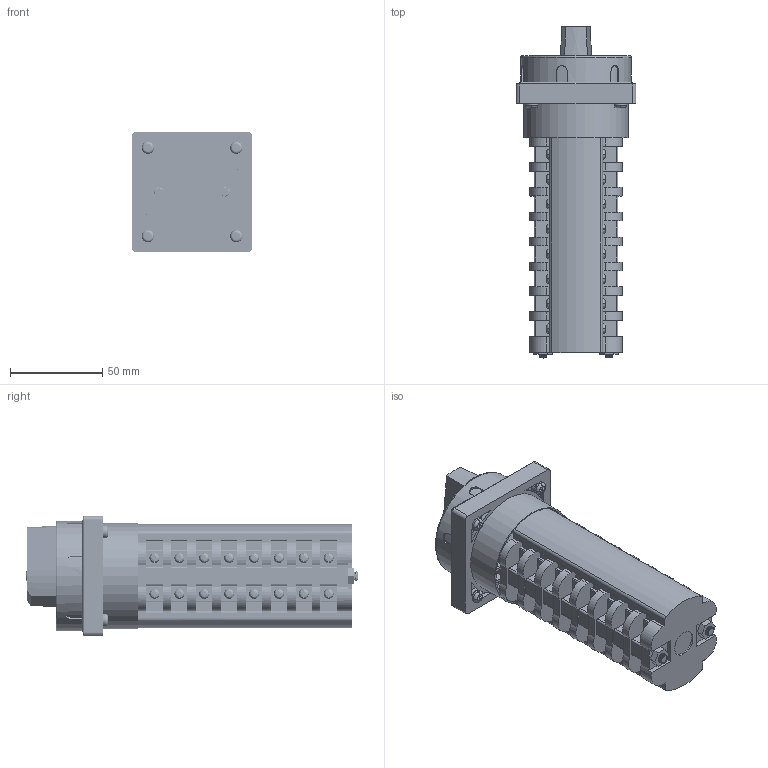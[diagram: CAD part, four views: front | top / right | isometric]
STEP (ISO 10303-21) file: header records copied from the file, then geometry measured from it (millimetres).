
FILE_DESCRIPTION(/* description */ (''),/* implementation_level */ '2;1');
FILE_NAME(/* name */ '4G16,25_S6_8_korpusow.stp',/* time_stamp */ '2021-07-21T10:43:06+02:00',/* author */ (''),/* organization */ (''),/* preprocessor_version */ 'ST-DEVELOPER v18.1',/* originating_system */ 'SIEMENS PLM Software NX 1965',/* authorisation */ '');
FILE_SCHEMA (('AUTOMOTIVE_DESIGN { 1 0 10303 214 3 1 1 1 }'));
Products named in the file (1): 4G16,25_S6_8_korpusow_stp
Bounding box: 65 x 180.1 x 65 mm (x, y, z)
Volume: 337827.4 mm3; surface area: 76397.9 mm2
Topology: 2 solids, 11 shells, 1884 faces, 5276 edges, 3472 vertices
Faces by surface type: plane 1111, cylinder 507, bspline 175, cone 70, torus 15, extrusion 6
Full cylindrical faces by diameter (mm): 2.9 x7, 3.1 x1, 4.3 x4, 5 x2, 5.4 x33, 5.6 x1, 6 x1, 6.7 x4, 7.2 x4, 8 x1, 14 x1, 55.8 x1, 57 x1, 58 x1, 60 x1
Entity records: 173203 total; most frequent: CARTESIAN_POINT 127090, ORIENTED_EDGE 10124, DIRECTION 8633, EDGE_CURVE 5062, VERTEX_POINT 3369, AXIS2_PLACEMENT_3D 3084, VECTOR 2465, LINE 2459
